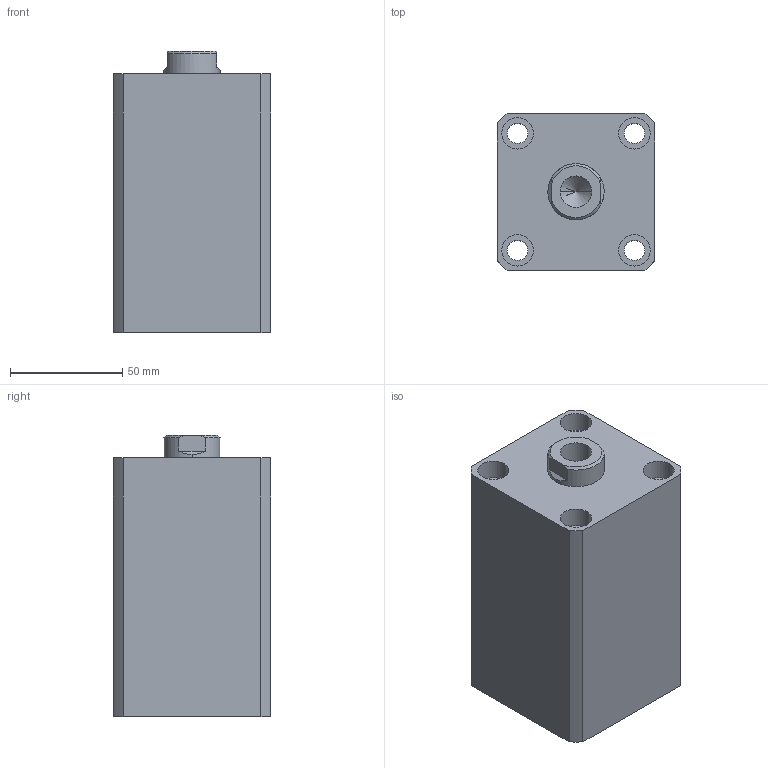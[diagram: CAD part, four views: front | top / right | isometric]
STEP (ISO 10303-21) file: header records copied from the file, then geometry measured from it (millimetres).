
FILE_DESCRIPTION (( 'STEP AP203' ), '1' );
FILE_NAME ('HTB-SDMB40-60N.STEP', '2019-10-09T01:57:35', ( '微软用户' ), ( '微软中国' ), 'SwSTEP 2.0', 'SolidWorks 2012', '' );
FILE_SCHEMA (( 'CONFIG_CONTROL_DESIGN' ));
Length unit declared in the file: millimetre
Products named in the file (3): HTB-SDMB40-60N; HTB-SDMB40-60N活塞杆; HTB-SDMB40-60掛极
Assembly tree (2 placements, depth 2):
  HTB-SDMB40-60N
    HTB-SDMB40-60掛极
    HTB-SDMB40-60N活塞杆
Bounding box: 70 x 70 x 125 mm (x, y, z)
Volume: 477832.8 mm3; surface area: 81623.5 mm2
Topology: 2 solids, 2 shells, 137 faces, 331 edges, 217 vertices
Faces by surface type: plane 65, cylinder 46, bspline 16, torus 6, cone 4
Entity records: 5074 total; most frequent: CARTESIAN_POINT 1580, ORIENTED_EDGE 658, DIRECTION 647, EDGE_CURVE 329, AXIS2_PLACEMENT_3D 232, VERTEX_POINT 217, VECTOR 183, LINE 183
